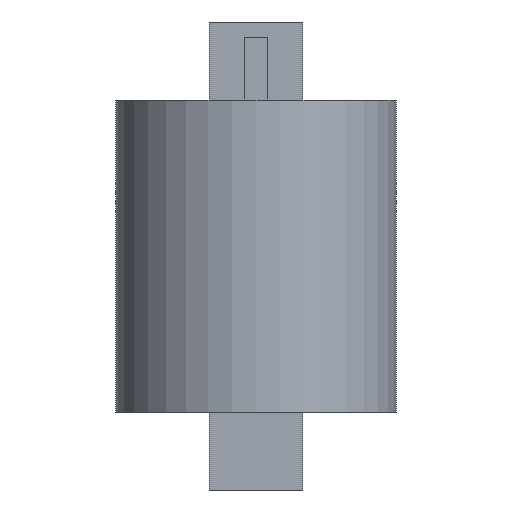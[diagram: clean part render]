
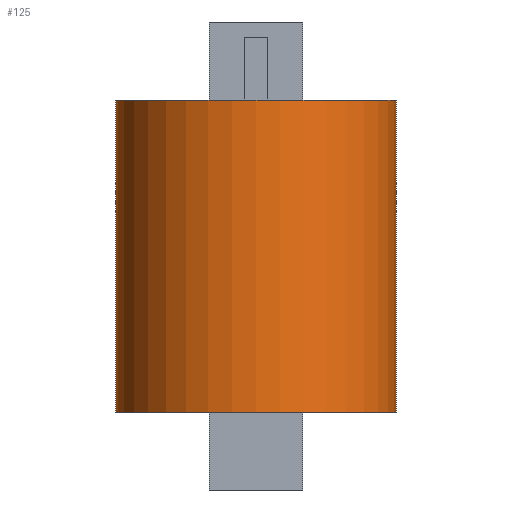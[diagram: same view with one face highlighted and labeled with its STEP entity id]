
A CAD part, front view. The second image highlights one B-rep face of the part: STEP entity #125.
In plain terms, the highlighted cylindrical face has radius 90 mm (diameter 180 mm), a full revolution.
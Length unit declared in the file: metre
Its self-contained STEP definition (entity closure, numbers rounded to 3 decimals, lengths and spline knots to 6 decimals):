
#125 = ADVANCED_FACE( '', ( #147, #148 ), #149, .T. );
#147 = FACE_OUTER_BOUND( '', #186, .T. );
#148 = FACE_OUTER_BOUND( '', #187, .T. );
#149 = CYLINDRICAL_SURFACE( '', #188, 0.09 );
#186 = EDGE_LOOP( '', ( #229 ) );
#187 = EDGE_LOOP( '', ( #230 ) );
#188 = AXIS2_PLACEMENT_3D( '', #231, #232, #233 );
#229 = ORIENTED_EDGE( '', *, *, #340, .F. );
#230 = ORIENTED_EDGE( '', *, *, #341, .T. );
#231 = CARTESIAN_POINT( '', ( 0., -0.1575, 0.1 ) );
#232 = DIRECTION( '', ( 0., 0., -1. ) );
#233 = DIRECTION( '', ( 1., 0., 0. ) );
#340 = EDGE_CURVE( '', #376, #376, #377, .T. );
#341 = EDGE_CURVE( '', #378, #378, #379, .T. );
#376 = VERTEX_POINT( '', #434 );
#377 = CIRCLE( '', #435, 0.09 );
#378 = VERTEX_POINT( '', #436 );
#379 = CIRCLE( '', #437, 0.09 );
#434 = CARTESIAN_POINT( '', ( 0.09, -0.1575, 0.1 ) );
#435 = AXIS2_PLACEMENT_3D( '', #524, #525, #526 );
#436 = CARTESIAN_POINT( '', ( 0.09, -0.1575, -0.1 ) );
#437 = AXIS2_PLACEMENT_3D( '', #527, #528, #529 );
#524 = CARTESIAN_POINT( '', ( 0., -0.1575, 0.1 ) );
#525 = DIRECTION( '', ( 0., 0., 1. ) );
#526 = DIRECTION( '', ( 1., 0., 0. ) );
#527 = CARTESIAN_POINT( '', ( 0., -0.1575, -0.1 ) );
#528 = DIRECTION( '', ( 0., 0., 1. ) );
#529 = DIRECTION( '', ( 1., 0., 0. ) );
